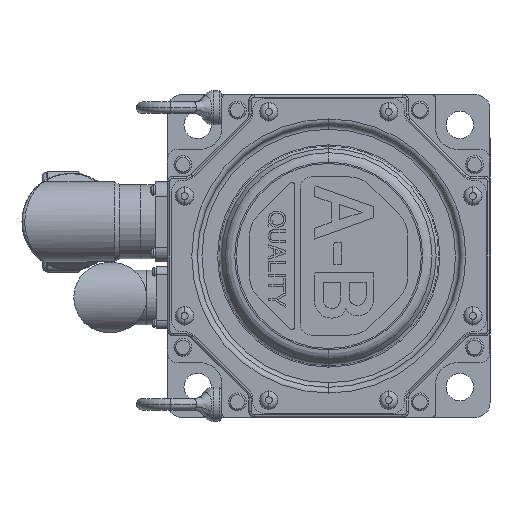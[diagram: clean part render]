
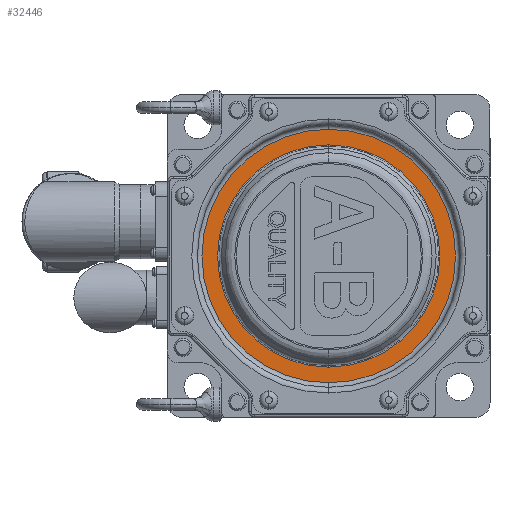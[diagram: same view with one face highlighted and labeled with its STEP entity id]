
A CAD part, left-side view. The second image highlights one B-rep face of the part: STEP entity #32446.
In plain terms, the highlighted planar face has unit normal (-1, 0, 0).
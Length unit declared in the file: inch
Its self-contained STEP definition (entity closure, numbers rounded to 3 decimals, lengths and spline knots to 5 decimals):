
#387 = VERTEX_POINT ( 'NONE', #3741 ) ;
#656 = ORIENTED_EDGE ( 'NONE', *, *, #7033, .T. ) ;
#1329 = AXIS2_PLACEMENT_3D ( 'NONE', #9613, #30338, #12587 ) ;
#1530 = CIRCLE ( 'NONE', #23291, 1.94657 ) ;
#1794 = AXIS2_PLACEMENT_3D ( 'NONE', #25505, #7807, #28508 ) ;
#2867 = CARTESIAN_POINT ( 'NONE',  ( -10.588, 0., 0. ) ) ;
#3252 = EDGE_CURVE ( 'NONE', #23811, #6875, #37894, .T. ) ;
#3741 = CARTESIAN_POINT ( 'NONE',  ( -10.588, 0., 1.94657 ) ) ;
#4780 = FACE_BOUND ( 'NONE', #28968, .T. ) ;
#4806 = PLANE ( 'NONE',  #1794 ) ;
#5881 = DIRECTION ( 'NONE',  ( 0., 0., -1. ) ) ;
#6481 = CARTESIAN_POINT ( 'NONE',  ( -10.588, 0., -2.221 ) ) ;
#6875 = VERTEX_POINT ( 'NONE', #29661 ) ;
#7033 = EDGE_CURVE ( 'NONE', #36305, #387, #1530, .T. ) ;
#7803 = CIRCLE ( 'NONE', #23255, 1.94657 ) ;
#7807 = DIRECTION ( 'NONE',  ( 1., 0., 0. ) ) ;
#9613 = CARTESIAN_POINT ( 'NONE',  ( -10.588, 0., 0. ) ) ;
#12417 = CARTESIAN_POINT ( 'NONE',  ( -10.588, 0., 0. ) ) ;
#12587 = DIRECTION ( 'NONE',  ( 0., 0., -1. ) ) ;
#15421 = DIRECTION ( 'NONE',  ( 0., 0., -1. ) ) ;
#17652 = CARTESIAN_POINT ( 'NONE',  ( -10.588, 0., 0. ) ) ;
#18483 = EDGE_CURVE ( 'NONE', #387, #36305, #7803, .T. ) ;
#18898 = ORIENTED_EDGE ( 'NONE', *, *, #25355, .T. ) ;
#20645 = DIRECTION ( 'NONE',  ( 0., 0., -1. ) ) ;
#21991 = ORIENTED_EDGE ( 'NONE', *, *, #3252, .T. ) ;
#23255 = AXIS2_PLACEMENT_3D ( 'NONE', #2867, #23608, #5881 ) ;
#23291 = AXIS2_PLACEMENT_3D ( 'NONE', #17652, #38377, #20645 ) ;
#23608 = DIRECTION ( 'NONE',  ( 1., 0., 0. ) ) ;
#23811 = VERTEX_POINT ( 'NONE', #6481 ) ;
#25355 = EDGE_CURVE ( 'NONE', #6875, #23811, #27718, .T. ) ;
#25505 = CARTESIAN_POINT ( 'NONE',  ( -10.588, 1.90545, 0. ) ) ;
#26181 = AXIS2_PLACEMENT_3D ( 'NONE', #12417, #33140, #15421 ) ;
#27718 = CIRCLE ( 'NONE', #26181, 2.221 ) ;
#28508 = DIRECTION ( 'NONE',  ( 0., 0., -1. ) ) ;
#28968 = EDGE_LOOP ( 'NONE', ( #656, #35125 ) ) ;
#29661 = CARTESIAN_POINT ( 'NONE',  ( -10.588, 0., 2.221 ) ) ;
#30338 = DIRECTION ( 'NONE',  ( -1., 0., 0. ) ) ;
#31642 = CARTESIAN_POINT ( 'NONE',  ( -10.588, 0., -1.94657 ) ) ;
#32446 = ADVANCED_FACE ( 'NONE', ( #35368, #4780 ), #4806, .F. ) ;
#33140 = DIRECTION ( 'NONE',  ( -1., 0., 0. ) ) ;
#35125 = ORIENTED_EDGE ( 'NONE', *, *, #18483, .T. ) ;
#35368 = FACE_OUTER_BOUND ( 'NONE', #36487, .T. ) ;
#36305 = VERTEX_POINT ( 'NONE', #31642 ) ;
#36487 = EDGE_LOOP ( 'NONE', ( #21991, #18898 ) ) ;
#37894 = CIRCLE ( 'NONE', #1329, 2.221 ) ;
#38377 = DIRECTION ( 'NONE',  ( 1., 0., 0. ) ) ;
